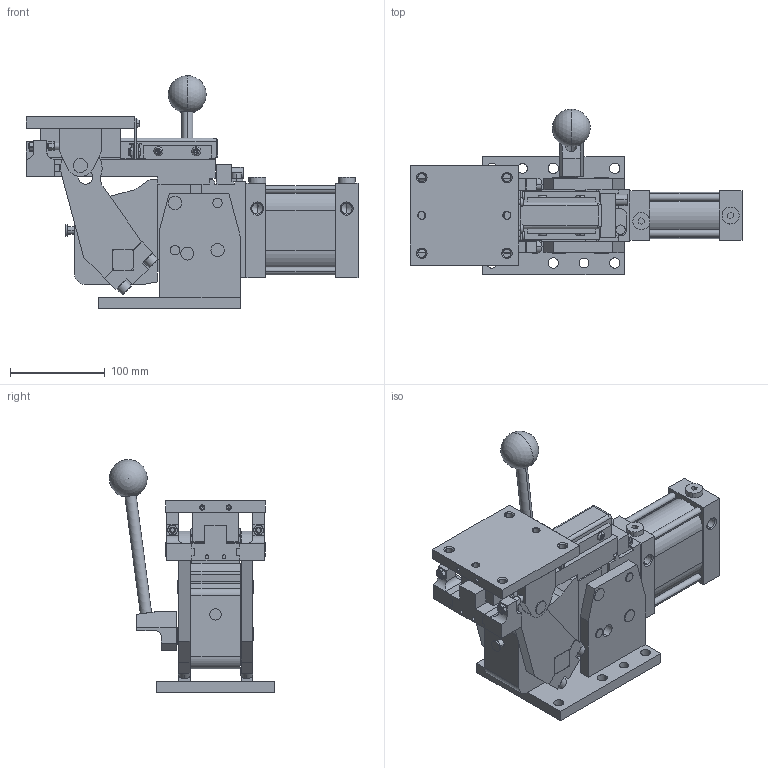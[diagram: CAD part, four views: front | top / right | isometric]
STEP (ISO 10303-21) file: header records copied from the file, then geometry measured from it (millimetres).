
FILE_DESCRIPTION (( 'STEP AP214' ), '1' );
FILE_NAME ('slcpm63_90_xx_lb_f_s2.STEP', '2019-09-19T12:56:41', ( '' ), ( '' ), 'SwSTEP 2.0', 'SolidWorks 2019', '' );
FILE_SCHEMA (( 'AUTOMOTIVE_DESIGN' ));
Length unit declared in the file: millimetre
Products named in the file (10): slcpm63_90_xx_lb_f_s2; leva_slcpm63; blocchetto_VEP_0; riparo_binario_post_slcp63; slcpm63_90_xx_x_x; staffa_reazione_destra_slcp63_dx; leva_slcp63; tappo cil G1_4 din908_rondella rame; staffa_reazione_sinistra_slcp63_sx; piastra_superiore_slcp63
Assembly tree (10 placements, depth 2):
  slcpm63_90_xx_lb_f_s2
    slcpm63_90_xx_x_x
    piastra_superiore_slcp63
    leva_slcp63
    blocchetto_VEP_0
    staffa_reazione_destra_slcp63_dx
    staffa_reazione_sinistra_slcp63_sx
    tappo cil G1_4 din908_rondella rame  x2
    riparo_binario_post_slcp63
    leva_slcpm63
Bounding box: 351 x 174.8 x 246.1 mm (x, y, z)
Volume: 2787205.1 mm3; surface area: 394837.1 mm2
Topology: 35 solids, 49 shells, 1282 faces, 3116 edges, 1923 vertices
Faces by surface type: plane 578, cylinder 368, cone 304, torus 30, sphere 2
Entity records: 43864 total; most frequent: CARTESIAN_POINT 7282, DIRECTION 6453, ORIENTED_EDGE 6010, EDGE_CURVE 3005, AXIS2_PLACEMENT_3D 2363, VERTEX_POINT 1900, LINE 1727, VECTOR 1727
